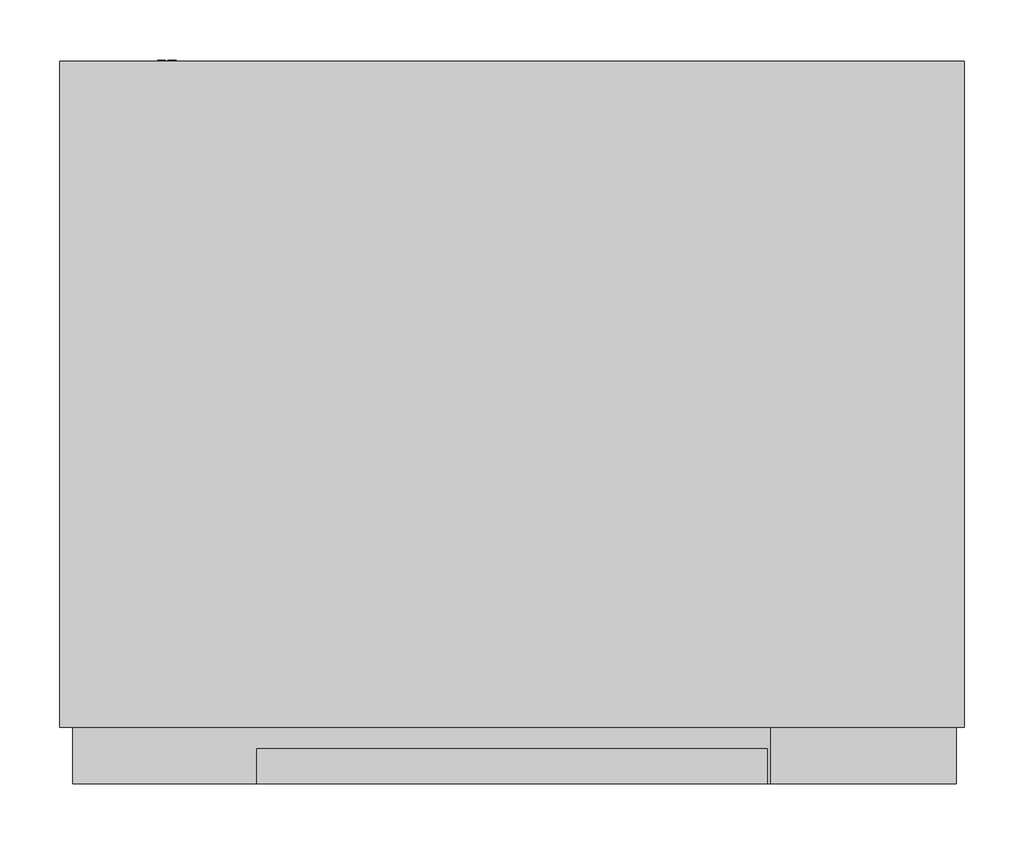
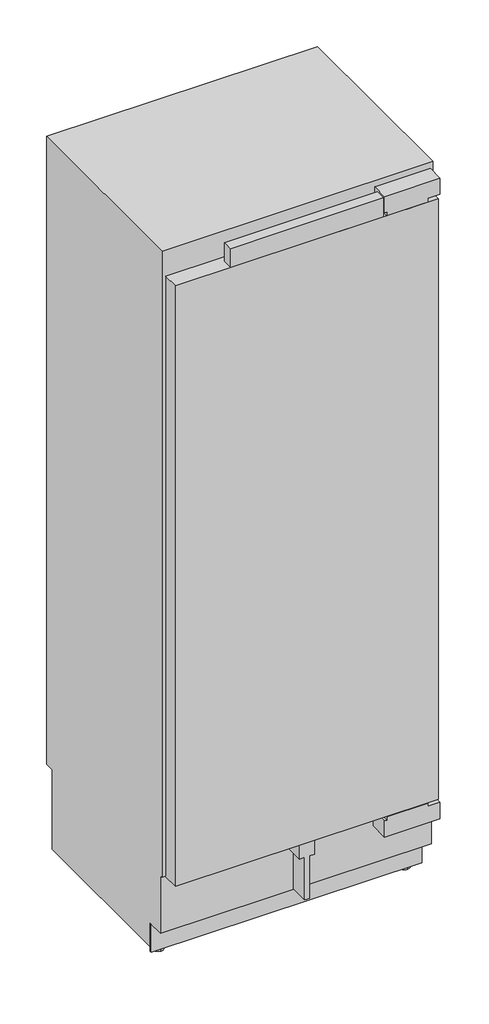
# Not in any storey: 1 proxy.
"""IFC4 building model written with IfcOpenShell, lengths in millimetres."""

import ifcopenshell
import ifcopenshell.guid

model = None  # the IFC model being written
_history = None  # IfcOwnerHistory: only IFC2X3 demands one
_inside = {}  # id of a spatial element -> (the spatial element, [elements in it])
_under = {}  # id of a project, library or spatial element -> (it, [spatial elements below it])
_declared = {}  # id of a project -> (the project, [libraries it declares])
_typed = {}  # id of a type object -> (the type object, [elements of that type])
_made_of = {}  # id of a material, layer set ... -> (it, [elements and type objects made of it])


def new_model(schema):
    """Start an empty IFC model of exactly this schema.

    Asked for "IFC4X3", IfcOpenShell would pick the latest addendum, in which some entities
    have other attributes; the version numbers below select the first issue.
    IFC2X3 requires an IfcOwnerHistory on every rooted entity: one is made here for all.
    """
    global model, _history
    if schema == "IFC4X3":
        model = ifcopenshell.file(schema_version=(4, 3, 0, 0))
    else:
        model = ifcopenshell.file(schema=schema)
    _inside.clear()
    _under.clear()
    _declared.clear()
    _typed.clear()
    _made_of.clear()
    _history = None
    if model.schema == "IFC2X3":
        org = make("IfcOrganization", Name="unknown")
        user = make(
            "IfcPersonAndOrganization",
            ThePerson=make("IfcPerson", FamilyName="unknown"),
            TheOrganization=org,
        )
        app = make(
            "IfcApplication",
            ApplicationDeveloper=org,
            Version="unknown",
            ApplicationFullName="unknown",
            ApplicationIdentifier="unknown",
        )
        _history = make(
            "IfcOwnerHistory",
            OwningUser=user,
            OwningApplication=app,
            ChangeAction="ADDED",
            CreationDate=0,
        )
    return model


def make(cls, **values):
    """One entity of the class cls with the attributes given. An attribute that is None is left unset."""
    return model.create_entity(
        cls, **{name: value for name, value in values.items() if value is not None}
    )


def rooted(cls, **values):
    """An entity with a GlobalId (a new one), such as an element, a storey or a relation."""
    return make(cls, GlobalId=ifcopenshell.guid.new(), OwnerHistory=_history, **values)


def si_unit(unit_type, name, prefix=None):
    """IfcSIUnit, for example si_unit("LENGTHUNIT", "METRE", prefix="MILLI")."""
    return make("IfcSIUnit", UnitType=unit_type, Prefix=prefix, Name=name)


def assignment(units):
    """IfcUnitAssignment: the units of a project."""
    return None if units is None else make("IfcUnitAssignment", Units=units)


def point(xyz):
    """IfcCartesianPoint."""
    return None if xyz is None else make("IfcCartesianPoint", Coordinates=xyz)


def direction(xyz):
    """IfcDirection."""
    return None if xyz is None else make("IfcDirection", DirectionRatios=xyz)


def frame(location, z_axis=None, x_axis=None):
    """IfcAxis2Placement3D, a coordinate frame: its origin and axes. An axis left out is left unset."""
    return make(
        "IfcAxis2Placement3D",
        Location=point(location),
        Axis=direction(z_axis),
        RefDirection=direction(x_axis),
    )


def frame_2d(location, x_axis=None):
    """IfcAxis2Placement2D, a coordinate frame in the plane: its origin and x axis."""
    return make(
        "IfcAxis2Placement2D", Location=point(location), RefDirection=direction(x_axis)
    )


def origin():
    """The frame at (0, 0, 0) with its axes left unset."""
    return frame((0.0, 0.0, 0.0))


def place(relative_to, where):
    """IfcLocalPlacement: puts the frame where relative to a parent placement (None: the world)."""
    return make(
        "IfcLocalPlacement", PlacementRelTo=relative_to, RelativePlacement=where
    )


def context(
    kind, dimensions, precision=None, world=None, true_north=None, identifier=None
):
    """IfcGeometricRepresentationContext, for example the 3D "Model" context."""
    return make(
        "IfcGeometricRepresentationContext",
        ContextIdentifier=identifier,
        ContextType=kind,
        CoordinateSpaceDimension=dimensions,
        Precision=precision,
        WorldCoordinateSystem=world,
        TrueNorth=true_north,
    )


def project(units=None, contexts=None):
    """IfcProject with its units and contexts."""
    return rooted(
        "IfcProject",
        Name="project",
        RepresentationContexts=contexts,
        UnitsInContext=assignment(units),
    )


def spatial(cls, under=None, at=None, **own):
    """A site, building, storey or space (cls), placed at a placement, below another one or the project."""
    s = rooted(cls, ObjectPlacement=at, **own)
    if under is not None:
        _under.setdefault(under.id(), (under, []))[1].append(s)
    return s


def polyline(points):
    """IfcPolyline through the points."""
    return make("IfcPolyline", Points=[point(p) for p in points])


def circle_curve(where, radius):
    """IfcCircle in the frame where."""
    return make("IfcCircle", Position=where, Radius=radius)


def trimmed(basis, trim1, trim2, sense, master):
    """IfcTrimmedCurve: the piece of a basis curve between two trims."""
    return make(
        "IfcTrimmedCurve",
        BasisCurve=basis,
        Trim1=trim1,
        Trim2=trim2,
        SenseAgreement=sense,
        MasterRepresentation=master,
    )


def segment(curve, same_sense, transition):
    """IfcCompositeCurveSegment."""
    return make(
        "IfcCompositeCurveSegment",
        Transition=transition,
        SameSense=same_sense,
        ParentCurve=curve,
    )


def composite_curve(segments, self_intersect=None):
    """IfcCompositeCurve: segments joined end to end."""
    return make("IfcCompositeCurve", Segments=segments, SelfIntersect=self_intersect)


def outline(outer, holes=None, kind="AREA"):
    """IfcArbitraryClosedProfileDef: a profile drawn as a closed curve; with holes, ...WithVoids."""
    if holes is None:
        return make("IfcArbitraryClosedProfileDef", ProfileType=kind, OuterCurve=outer)
    return make(
        "IfcArbitraryProfileDefWithVoids",
        ProfileType=kind,
        OuterCurve=outer,
        InnerCurves=holes,
    )


def extrude(swept, where, along, depth):
    """IfcExtrudedAreaSolid: the profile swept, set in the frame where, extruded along a direction by depth."""
    return make(
        "IfcExtrudedAreaSolid",
        SweptArea=swept,
        Position=where,
        ExtrudedDirection=direction(along),
        Depth=depth,
    )


def shape(context_of_items, identifier, shape_type, items):
    """IfcShapeRepresentation: the items that make up one representation, for example the "Body"."""
    return make(
        "IfcShapeRepresentation",
        ContextOfItems=context_of_items,
        RepresentationIdentifier=identifier,
        RepresentationType=shape_type,
        Items=items,
    )


def source(mapping_origin, context_of_items, identifier, shape_type, items):
    """IfcRepresentationMap: a shape defined once, which mapped items show again and again."""
    return make(
        "IfcRepresentationMap",
        MappingOrigin=mapping_origin,
        MappedRepresentation=shape(context_of_items, identifier, shape_type, items),
    )


def transform(
    local_origin,
    x_axis=None,
    y_axis=None,
    z_axis=None,
    scale=None,
    scale2=None,
    scale3=None,
    uniform=True,
):
    """IfcCartesianTransformationOperator3D, or its non-uniform kind. x_axis, y_axis, z_axis: its Axis1, 2, 3."""
    if uniform:
        return make(
            "IfcCartesianTransformationOperator3D",
            Axis1=direction(x_axis),
            Axis2=direction(y_axis),
            LocalOrigin=point(local_origin),
            Scale=scale,
            Axis3=direction(z_axis),
        )
    return make(
        "IfcCartesianTransformationOperator3DnonUniform",
        Axis1=direction(x_axis),
        Axis2=direction(y_axis),
        LocalOrigin=point(local_origin),
        Scale=scale,
        Axis3=direction(z_axis),
        Scale2=scale2,
        Scale3=scale3,
    )


def mapped(mapping_source, mapping_target):
    """IfcMappedItem: shows the shape of a source again, moved by a transform."""
    return make(
        "IfcMappedItem", MappingSource=mapping_source, MappingTarget=mapping_target
    )


def made_of(thing, what):
    """Note that an element or type object is made of a material, layer set ...; save() writes the relation."""
    if what is not None:
        _made_of.setdefault(what.id(), (what, []))[1].append(thing)
    return thing


def element(
    cls,
    number,
    at=None,
    inside=None,
    cuts=None,
    type_object=None,
    material=None,
    context=None,
    identifier="Body",
    shape_type=None,
    held_by="IfcProductDefinitionShape",
    body=None,
    shapes=None,
    **own,
):
    """One element of the class cls, such as IfcWall. Its Tag is "e" and its number.

    at: its placement. inside: the storey or other place that contains it. cuts: it is an
    opening in that element (IfcRelVoidsElement). A single representation is given by context,
    identifier, shape_type and body (its items); several are given by shapes. held_by: the class
    of the entity that holds the representations. save() writes the other relations.
    """
    e = rooted(cls, Tag="e%d" % number, ObjectPlacement=at, **own)
    if body is not None:
        shapes = [shape(context, identifier, shape_type, body)]
    if shapes is not None:
        e.Representation = make(held_by, Representations=shapes)
    if inside is not None:
        _inside.setdefault(inside.id(), (inside, []))[1].append(e)
    if cuts is not None:
        rooted(
            "IfcRelVoidsElement", RelatingBuildingElement=cuts, RelatedOpeningElement=e
        )
    if type_object is not None:
        _typed.setdefault(type_object.id(), (type_object, []))[1].append(e)
    return made_of(e, material)


def aggregate(whole, parts):
    """IfcRelAggregates: a whole, such as a stair, and the parts it consists of."""
    return rooted("IfcRelAggregates", RelatingObject=whole, RelatedObjects=parts)


def save(model, path):
    """Write the relations noted so far, then the file.

    IfcRelAggregates (storeys below a building ...), IfcRelContainedInSpatialStructure (elements
    in a storey), IfcRelDefinesByType, IfcRelAssociatesMaterial and IfcRelDeclares: one each for
    every whole, place, type object, material and project.
    """
    for whole, parts in _under.values():
        aggregate(whole, parts)
    for where, things in _inside.values():
        rooted(
            "IfcRelContainedInSpatialStructure",
            RelatedElements=things,
            RelatingStructure=where,
        )
    for kind, things in _typed.values():
        rooted("IfcRelDefinesByType", RelatedObjects=things, RelatingType=kind)
    for what, things in _made_of.values():
        rooted("IfcRelAssociatesMaterial", RelatedObjects=things, RelatingMaterial=what)
    for by, libraries in _declared.values():
        rooted("IfcRelDeclares", RelatingContext=by, RelatedDefinitions=libraries)
    model.write(path)


def plane_surface(at):
    """IfcPlane: the flat surface through the origin of the frame at, square to its z axis."""
    return make("IfcPlane", Position=at)


def cylinder_surface(at, radius):
    """IfcCylindricalSurface: all points at the distance radius from the z axis of the frame at."""
    return make("IfcCylindricalSurface", Position=at, Radius=radius)


def advanced_brep(points, edges, surfaces, faces):
    """IfcAdvancedBrep: a solid bounded by faces that lie on surfaces and meet in shared edges.

    An edge is (start, end): straight between two places in points (the first is 0);
    or (start, end, curve); or (start, end, curve, False) where it runs against its curve.
    A face is (place in surfaces, loops), or (place, loops, False) where it looks against
    its surface's normal. A loop lists edges by number (the first is 1), with a minus sign
    where the edge is run from its end to its start. The first loop is the outer one.
    """
    corners = [point(p) for p in points]
    vertices = [make("IfcVertexPoint", VertexGeometry=c) for c in corners]
    made = []
    for start, end, *more in edges:
        made.append(
            make(
                "IfcEdgeCurve",
                EdgeStart=vertices[start],
                EdgeEnd=vertices[end],
                EdgeGeometry=more[0] if more else make("IfcPolyline", Points=[corners[start], corners[end]]),
                SameSense=more[1] if len(more) > 1 else True,
            )
        )
    hull = []
    for where, loops, *sense in faces:
        bounds = []
        for j, loop in enumerate(loops):
            ring = [make("IfcOrientedEdge", EdgeElement=made[abs(k) - 1], Orientation=k > 0) for k in loop]
            bounds.append(
                make(
                    "IfcFaceOuterBound" if j == 0 else "IfcFaceBound",
                    Bound=make("IfcEdgeLoop", EdgeList=ring),
                    Orientation=True,
                )
            )
        hull.append(make("IfcAdvancedFace", Bounds=bounds, FaceSurface=surfaces[where], SameSense=sense[0] if sense else True))
    return make("IfcAdvancedBrep", Outer=make("IfcClosedShell", CfsFaces=hull))


def specialty_equipment_c14d8376(model_context):
    return source(origin(), model_context, "Body", "SolidModel", [
        extrude(outline(polyline([(-367.0, 47.0), (367.0, 47.0), (367.0, 0.0), (-367.0, 0.0), (-367.0, 47.0)])), frame((0.0, 0.0, 265.0), z_axis=(0.0, 0.0, 1.0), x_axis=(1.0, 0.0, 0.0)), (0.0, 0.0, 1.0), 1771.0),
        extrude(outline(polyline([(-213.5, 29.0), (213.5, 29.0), (213.5, 0.0), (-213.5, 0.0), (-213.5, 29.0)])), frame((0.0, 0.0, 2036.0), z_axis=(0.0, 0.0, 1.0), x_axis=(1.0, 0.0, 0.0)), (0.0, 0.0, 1.0), 56.0),
        extrude(outline(polyline([(265.0, 21.0), (265.0, 0.0), (265.0, -21.0), (224.0, -21.0), (224.0, -6.5), (99.0, -6.5), (99.0, 0.0), (99.0, 6.5), (224.0, 6.5), (224.0, 21.0), (265.0, 21.0)])), frame((0.0, 0.0, 0.0), z_axis=(0.0, 1.0, 0.0), x_axis=(0.0, 0.0, 1.0)), (0.0, 0.0, 1.0), 54.0),
        extrude(outline(polyline([(87.0, 1998.0), (544.0, 1998.0), (544.0, 1791.0), (475.0, 1791.0), (447.0, 1868.0), (201.3701279, 1868.0), (156.3150905, 1940.0880598), (87.0, 1949.0), (87.0, 1998.0)])), frame((-332.0, 0.0, 0.0), z_axis=(1.0, 0.0, 0.0), x_axis=(0.0, 1.0, 0.0)), (0.0, 0.0, 1.0), 664.0),
        extrude(outline(polyline([(196.9886114, 1875.0), (195.809433, 1875.0), (158.6921935, 1934.4), (159.8713719, 1934.4), (196.9886114, 1875.0)])), frame((-69.0, 0.0, 0.0), z_axis=(1.0, 0.0, 0.0), x_axis=(0.0, 1.0, 0.0)), (0.0, 0.0, 1.0), 138.0),
        extrude(outline(polyline([(2095.0, 371.5), (2095.0, 216.5), (2047.0, 216.5), (2047.0, 222.5), (2036.5, 222.5), (2036.5, 337.5), (2047.0, 337.5), (2047.0, 371.5), (2095.0, 371.5)])), frame((0.0, 0.0, 0.0), z_axis=(0.0, 1.0, 0.0), x_axis=(0.0, 0.0, 1.0)), (0.0, 0.0, 1.0), 47.0),
        extrude(outline(polyline([(254.0, 216.5), (206.0, 216.5), (206.0, 371.5), (254.0, 371.5), (254.0, 337.5), (264.0, 337.5), (264.0, 222.5), (254.0, 222.5), (254.0, 216.5)])), frame((0.0, 0.0, 0.0), z_axis=(0.0, 1.0, 0.0), x_axis=(0.0, 0.0, 1.0)), (0.0, 0.0, 1.0), 54.0),
        extrude(outline(polyline([(99.0373308, -287.7645771), (97.7615342, -287.7645771), (97.7615342, -281.8195541), (94.7968516, -281.8195541), (94.7968516, -287.469579), (93.5246295, -287.469579), (93.5246295, -281.8415693), (90.2570046, -281.8415693), (90.2570046, -287.9619689), (88.9546219, -287.9619689), (88.9546219, -280.5443524), (99.0373308, -280.5443524), (99.0373308, -287.7645771)])), frame((0.0, 604.0, 0.0), z_axis=(0.0, 1.0, 0.0), x_axis=(0.0, 0.0, 1.0)), (0.0, 0.0, 1.0), 1.0),
        extrude(outline(polyline([(99.0458, -291.0619704), (90.2663944, -291.0619704), (90.2663944, -296.1145879), (89.0134802, -296.1145879), (89.0134802, -289.8423809), (99.0458, -289.8423809), (99.0458, -291.0619704)])), frame((0.0, 604.0, 0.0), z_axis=(0.0, 1.0, 0.0), x_axis=(0.0, 0.0, 1.0)), (0.0, 0.0, 1.0), 1.0),
        extrude(outline(composite_curve([segment(trimmed(circle_curve(frame_2d((94.0, -288.0)), 7.5), [point((86.5, -288.0))], [point((101.5, -288.0))], False, "CARTESIAN"), True, "CONTINUOUS"), segment(trimmed(circle_curve(frame_2d((94.0, -288.0)), 7.5), [point((101.5, -288.0))], [point((86.5, -288.0))], False, "CARTESIAN"), True, "CONTINUOUS")], self_intersect=False)), frame((0.0, 577.0, 0.0), z_axis=(0.0, 1.0, 0.0), x_axis=(0.0, 0.0, 1.0)), (0.0, 0.0, 1.0), 27.0),
        extrude(outline(polyline([(-378.0, 104.0), (378.0, 104.0), (378.0, 99.0), (-378.0, 99.0), (-378.0, 104.0)])), frame((0.0, 0.0, 14.0), z_axis=(0.0, 0.0, 1.0), x_axis=(1.0, 0.0, 0.0)), (0.0, 0.0, 1.0), 83.0),
        advanced_brep(
        [(-344.0, 139.0, 0.0), (-344.0, 109.0, 0.0), (-344.0, 139.0, 7.0), (-344.0, 109.0, 7.0), (-344.0, 128.7, 7.0), (-344.0, 119.3, 7.0), (-344.0, 128.7, 28.0), (-344.0, 119.3, 28.0)],
        [
            (0, 1, circle_curve(frame((-344.0, 124.0, 0.0), z_axis=(0.0, 0.0, -1.0), x_axis=(1.0, 0.0, 0.0)), 15.0)),
            (1, 0, circle_curve(frame((-344.0, 124.0, 0.0), z_axis=(0.0, 0.0, -1.0), x_axis=(1.0, 0.0, 0.0)), 15.0)),
            (2, 3, circle_curve(frame((-344.0, 124.0, 7.0), z_axis=(0.0, 0.0, 1.0), x_axis=(1.0, 0.0, 0.0)), 15.0)),
            (3, 2, circle_curve(frame((-344.0, 124.0, 7.0), z_axis=(0.0, 0.0, 1.0), x_axis=(1.0, 0.0, 0.0)), 15.0)),
            (4, 5, circle_curve(frame((-344.0, 124.0, 7.0), z_axis=(0.0, 0.0, -1.0), x_axis=(0.0, -1.0, 0.0)), 4.7)),
            (5, 4, circle_curve(frame((-344.0, 124.0, 7.0), z_axis=(0.0, 0.0, -1.0), x_axis=(0.0, -1.0, 0.0)), 4.7)),
            (0, 2),
            (3, 1),
            (6, 7, circle_curve(frame((-344.0, 124.0, 28.0), z_axis=(0.0, 0.0, 1.0), x_axis=(0.0, -1.0, 0.0)), 4.7)),
            (7, 6, circle_curve(frame((-344.0, 124.0, 28.0), z_axis=(0.0, 0.0, 1.0), x_axis=(0.0, -1.0, 0.0)), 4.7)),
            (7, 5),
            (4, 6),
        ],
        [
            plane_surface(frame((-329.0, 124.0, 0.0), z_axis=(0.0, 0.0, -1.0), x_axis=(0.0, -1.0, 0.0))),
            plane_surface(frame((-329.0, 124.0, 7.0), z_axis=(0.0, 0.0, 1.0), x_axis=(0.0, 1.0, 0.0))),
            cylinder_surface(frame((-344.0, 124.0, 7.0), z_axis=(0.0, 0.0, -1.0), x_axis=(1.0, 0.0, 0.0)), 15.0),
            plane_surface(frame((-344.0, 119.3, 28.0), z_axis=(0.0, 0.0, 1.0), x_axis=(1.0, 0.0, 0.0))),
            cylinder_surface(frame((-344.0, 124.0, 28.0), z_axis=(0.0, 0.0, -1.0), x_axis=(0.0, -1.0, 0.0)), 4.7),
        ],
        [
            (0, [[1, 2]]),
            (1, [[3, 4], [5, 6]]),
            (2, [[-1, 7, -4, 8]]),
            (2, [[-2, -8, -3, -7]]),
            (3, [[9, 10]]),
            (4, [[-10, 11, -5, 12]]),
            (4, [[-9, -12, -6, -11]]),
        ],
    ),
        advanced_brep(
        [(344.0, 139.0, 0.0), (344.0, 109.0, 0.0), (344.0, 139.0, 7.0), (344.0, 109.0, 7.0), (344.0, 128.7, 7.0), (344.0, 119.3, 7.0), (344.0, 128.7, 28.0), (344.0, 119.3, 28.0)],
        [
            (0, 1, circle_curve(frame((344.0, 124.0, 0.0), z_axis=(0.0, 0.0, -1.0), x_axis=(1.0, 0.0, 0.0)), 15.0)),
            (1, 0, circle_curve(frame((344.0, 124.0, 0.0), z_axis=(0.0, 0.0, -1.0), x_axis=(1.0, 0.0, 0.0)), 15.0)),
            (2, 3, circle_curve(frame((344.0, 124.0, 7.0), z_axis=(0.0, 0.0, 1.0), x_axis=(1.0, 0.0, 0.0)), 15.0)),
            (3, 2, circle_curve(frame((344.0, 124.0, 7.0), z_axis=(0.0, 0.0, 1.0), x_axis=(1.0, 0.0, 0.0)), 15.0)),
            (4, 5, circle_curve(frame((344.0, 124.0, 7.0), z_axis=(0.0, 0.0, -1.0), x_axis=(0.0, -1.0, 0.0)), 4.7)),
            (5, 4, circle_curve(frame((344.0, 124.0, 7.0), z_axis=(0.0, 0.0, -1.0), x_axis=(0.0, -1.0, 0.0)), 4.7)),
            (0, 2),
            (3, 1),
            (6, 7, circle_curve(frame((344.0, 124.0, 28.0), z_axis=(0.0, 0.0, 1.0), x_axis=(0.0, -1.0, 0.0)), 4.7)),
            (7, 6, circle_curve(frame((344.0, 124.0, 28.0), z_axis=(0.0, 0.0, 1.0), x_axis=(0.0, -1.0, 0.0)), 4.7)),
            (7, 5),
            (4, 6),
        ],
        [
            plane_surface(frame((-329.0, 124.0, 0.0), z_axis=(0.0, 0.0, -1.0), x_axis=(0.0, -1.0, 0.0))),
            plane_surface(frame((-329.0, 124.0, 7.0), z_axis=(0.0, 0.0, 1.0), x_axis=(0.0, 1.0, 0.0))),
            cylinder_surface(frame((344.0, 124.0, 7.0), z_axis=(0.0, 0.0, -1.0), x_axis=(1.0, 0.0, 0.0)), 15.0),
            plane_surface(frame((-344.0, 119.3, 28.0), z_axis=(0.0, 0.0, 1.0), x_axis=(1.0, 0.0, 0.0))),
            cylinder_surface(frame((344.0, 124.0, 28.0), z_axis=(0.0, 0.0, -1.0), x_axis=(0.0, -1.0, 0.0)), 4.7),
        ],
        [
            (0, [[1, 2]]),
            (1, [[3, 4], [5, 6]]),
            (2, [[-1, 7, -4, 8]]),
            (2, [[-2, -8, -3, -7]]),
            (3, [[9, 10]]),
            (4, [[-10, 11, -5, 12]]),
            (4, [[-9, -12, -6, -11]]),
        ],
    ),
        advanced_brep(
        [(378.0, 47.0, 2114.0), (378.0, 47.0, 267.0), (378.0, 54.0, 267.0), (378.0, 54.0, 97.0), (378.0, 104.0, 97.0), (378.0, 104.0, 28.0), (378.0, 577.0, 28.0), (378.0, 577.0, 263.0), (378.0, 604.0, 263.0), (378.0, 604.0, 2114.0), (-378.0, 47.0, 2114.0), (-378.0, 604.0, 2114.0), (-378.0, 604.0, 263.0), (-378.0, 577.0, 263.0), (-378.0, 577.0, 28.0), (-378.0, 104.0, 28.0), (-378.0, 104.0, 97.0), (-378.0, 54.0, 97.0), (-378.0, 54.0, 267.0), (-378.0, 47.0, 267.0), (318.0, 577.0, 28.0), (318.0, 577.0, 14.0), (-318.0, 577.0, 14.0), (-318.0, 577.0, 28.0), (318.0, 104.0, 14.0), (-318.0, 104.0, 14.0), (-318.0, 104.0, 28.0), (318.0, 104.0, 28.0), (332.0, 47.0, 1998.0), (332.0, 47.0, 343.0), (-332.0, 47.0, 343.0), (-332.0, 47.0, 1998.0), (332.0, 544.0, 1998.0), (-332.0, 544.0, 1998.0), (-332.0, 544.0, 343.0), (332.0, 544.0, 343.0), (-336.5, 202.8193473, 28.0), (-355.5, 202.8193473, 28.0), (-355.5, 153.1806527, 28.0), (-336.5, 153.1806527, 28.0), (-356.0, 525.8193473, 28.0), (-356.0, 476.1806527, 28.0), (-340.0, 476.1806527, 28.0), (-340.0, 525.8193473, 28.0), (355.5, 153.1806527, 28.0), (355.5, 202.8193473, 28.0), (336.5, 202.8193473, 28.0), (336.5, 153.1806527, 28.0), (340.0, 525.8193473, 28.0), (340.0, 476.1806527, 28.0), (356.0, 476.1806527, 28.0), (356.0, 525.8193473, 28.0), (-336.5, 203.0, 25.0), (-336.5, 153.0, 25.0), (-355.5, 153.0, 25.0), (-355.5, 203.0, 25.0), (-336.5, 178.0, 25.0), (-355.5, 178.0, 25.0), (355.5, 178.0, 25.0), (355.5, 153.0, 25.0), (355.5, 203.0, 25.0), (336.5, 203.0, 25.0), (336.5, 153.0, 25.0), (336.5, 178.0, 25.0), (-356.0, 526.0, 25.0), (-356.0, 476.0, 25.0), (-356.0, 501.0, 25.0), (-340.0, 526.0, 25.0), (-340.0, 476.0, 25.0), (-340.0, 501.0, 25.0), (340.0, 526.0, 25.0), (340.0, 476.0, 25.0), (340.0, 501.0, 25.0), (356.0, 526.0, 25.0), (356.0, 476.0, 25.0), (356.0, 501.0, 25.0)],
        [
            (0, 1),
            (1, 2),
            (2, 3),
            (3, 4),
            (4, 5),
            (5, 6),
            (6, 7),
            (7, 8),
            (8, 9),
            (9, 0),
            (10, 11),
            (11, 12),
            (12, 13),
            (13, 14),
            (14, 15),
            (15, 16),
            (16, 17),
            (17, 18),
            (18, 19),
            (19, 10),
            (9, 11),
            (10, 0),
            (8, 12),
            (7, 13),
            (6, 20),
            (20, 21),
            (21, 22),
            (22, 23),
            (23, 14),
            (21, 24),
            (24, 25),
            (25, 22),
            (4, 16),
            (15, 26),
            (26, 25),
            (24, 27),
            (27, 5),
            (3, 17),
            (2, 18),
            (1, 19),
            (28, 29),
            (29, 30),
            (30, 31),
            (31, 28),
            (32, 33),
            (33, 34),
            (34, 35),
            (35, 32),
            (35, 29),
            (28, 32),
            (34, 30),
            (33, 31),
            (23, 26),
            (36, 37),
            (37, 38),
            (38, 39),
            (39, 36),
            (40, 41),
            (41, 42),
            (42, 43),
            (43, 40),
            (27, 20),
            (44, 45),
            (45, 46),
            (46, 47),
            (47, 44),
            (48, 49),
            (49, 50),
            (50, 51),
            (51, 48),
            (52, 53, circle_curve(frame((-336.5, 178.0, 25.0), z_axis=(-1.0, 0.0, 0.0), x_axis=(0.0, -1.0, 0.0)), 25.0)),
            (53, 54),
            (54, 55, circle_curve(frame((-355.5, 178.0, 25.0), z_axis=(1.0, 0.0, 0.0), x_axis=(0.0, -1.0, 0.0)), 25.0)),
            (55, 52),
            (53, 39, circle_curve(frame((-336.5, 178.0, 25.0), z_axis=(-1.0, 0.0, 0.0), x_axis=(0.0, -1.0, 0.0)), 25.0)),
            (38, 54, circle_curve(frame((-355.5, 178.0, 25.0), z_axis=(1.0, 0.0, 0.0), x_axis=(0.0, -1.0, 0.0)), 25.0)),
            (55, 37, circle_curve(frame((-355.5, 178.0, 25.0), z_axis=(1.0, 0.0, 0.0), x_axis=(0.0, -1.0, 0.0)), 25.0)),
            (36, 52, circle_curve(frame((-336.5, 178.0, 25.0), z_axis=(-1.0, 0.0, 0.0), x_axis=(0.0, -1.0, 0.0)), 25.0)),
            (52, 56),
            (56, 53),
            (54, 57),
            (57, 55),
            (58, 59),
            (59, 60, circle_curve(frame((355.5, 178.0, 25.0), z_axis=(1.0, 0.0, 0.0), x_axis=(0.0, -1.0, 0.0)), 25.0)),
            (60, 58),
            (60, 45, circle_curve(frame((355.5, 178.0, 25.0), z_axis=(1.0, 0.0, 0.0), x_axis=(0.0, -1.0, 0.0)), 25.0)),
            (44, 59, circle_curve(frame((355.5, 178.0, 25.0), z_axis=(1.0, 0.0, 0.0), x_axis=(0.0, -1.0, 0.0)), 25.0)),
            (61, 62, circle_curve(frame((336.5, 178.0, 25.0), z_axis=(-1.0, 0.0, 0.0), x_axis=(0.0, -1.0, 0.0)), 25.0)),
            (62, 63),
            (63, 61),
            (62, 47, circle_curve(frame((336.5, 178.0, 25.0), z_axis=(-1.0, 0.0, 0.0), x_axis=(0.0, -1.0, 0.0)), 25.0)),
            (46, 61, circle_curve(frame((336.5, 178.0, 25.0), z_axis=(-1.0, 0.0, 0.0), x_axis=(0.0, -1.0, 0.0)), 25.0)),
            (64, 65, circle_curve(frame((-356.0, 501.0, 25.0), z_axis=(-1.0, 0.0, 0.0), x_axis=(0.0, -1.0, 0.0)), 25.0)),
            (65, 66),
            (66, 64),
            (65, 41, circle_curve(frame((-356.0, 501.0, 25.0), z_axis=(-1.0, 0.0, 0.0), x_axis=(0.0, -1.0, 0.0)), 25.0)),
            (40, 64, circle_curve(frame((-356.0, 501.0, 25.0), z_axis=(-1.0, 0.0, 0.0), x_axis=(0.0, -1.0, 0.0)), 25.0)),
            (64, 67),
            (67, 68, circle_curve(frame((-340.0, 501.0, 25.0), z_axis=(-1.0, 0.0, 0.0), x_axis=(0.0, -1.0, 0.0)), 25.0)),
            (68, 65),
            (43, 67, circle_curve(frame((-340.0, 501.0, 25.0), z_axis=(-1.0, 0.0, 0.0), x_axis=(0.0, -1.0, 0.0)), 25.0)),
            (68, 42, circle_curve(frame((-340.0, 501.0, 25.0), z_axis=(-1.0, 0.0, 0.0), x_axis=(0.0, -1.0, 0.0)), 25.0)),
            (67, 69),
            (69, 68),
            (70, 71, circle_curve(frame((340.0, 501.0, 25.0), z_axis=(-1.0, 0.0, 0.0), x_axis=(0.0, -1.0, 0.0)), 25.0)),
            (71, 72),
            (72, 70),
            (71, 49, circle_curve(frame((340.0, 501.0, 25.0), z_axis=(-1.0, 0.0, 0.0), x_axis=(0.0, -1.0, 0.0)), 25.0)),
            (48, 70, circle_curve(frame((340.0, 501.0, 25.0), z_axis=(-1.0, 0.0, 0.0), x_axis=(0.0, -1.0, 0.0)), 25.0)),
            (70, 73),
            (73, 74, circle_curve(frame((356.0, 501.0, 25.0), z_axis=(-1.0, 0.0, 0.0), x_axis=(0.0, -1.0, 0.0)), 25.0)),
            (74, 71),
            (51, 73, circle_curve(frame((356.0, 501.0, 25.0), z_axis=(-1.0, 0.0, 0.0), x_axis=(0.0, -1.0, 0.0)), 25.0)),
            (74, 50, circle_curve(frame((356.0, 501.0, 25.0), z_axis=(-1.0, 0.0, 0.0), x_axis=(0.0, -1.0, 0.0)), 25.0)),
            (73, 75),
            (75, 74),
            (59, 62),
            (61, 60),
        ],
        [
            plane_surface(frame((378.0, 604.0, 2114.0), z_axis=(1.0, 0.0, 0.0), x_axis=(0.0, -1.0, 0.0))),
            plane_surface(frame((-378.0, 604.0, 2114.0), z_axis=(-1.0, 0.0, 0.0), x_axis=(0.0, 1.0, 0.0))),
            plane_surface(frame((-378.0, 47.0, 2114.0), z_axis=(0.0, 0.0, 1.0), x_axis=(1.0, 0.0, 0.0))),
            plane_surface(frame((-378.0, 604.0, 2114.0), z_axis=(0.0, 1.0, 0.0), x_axis=(1.0, 0.0, 0.0))),
            plane_surface(frame((-378.0, 604.0, 263.0), z_axis=(0.0, 0.0, -1.0), x_axis=(1.0, 0.0, 0.0))),
            plane_surface(frame((-378.0, 577.0, 263.0), z_axis=(0.0, 1.0, 0.0), x_axis=(1.0, 0.0, 0.0))),
            plane_surface(frame((-378.0, 577.0, 14.0), z_axis=(0.0, 0.0, -1.0), x_axis=(1.0, 0.0, 0.0))),
            plane_surface(frame((-378.0, 104.0, 14.0), z_axis=(0.0, -1.0, 0.0), x_axis=(1.0, 0.0, 0.0))),
            plane_surface(frame((-378.0, 104.0, 97.0), z_axis=(0.0, 0.0, -1.0), x_axis=(1.0, 0.0, 0.0))),
            plane_surface(frame((-378.0, 54.0, 97.0), z_axis=(0.0, -1.0, 0.0), x_axis=(1.0, 0.0, 0.0))),
            plane_surface(frame((-378.0, 54.0, 267.0), z_axis=(0.0, 0.0, -1.0), x_axis=(1.0, 0.0, 0.0))),
            plane_surface(frame((-378.0, 47.0, 267.0), z_axis=(0.0, -1.0, 0.0), x_axis=(1.0, 0.0, 0.0))),
            plane_surface(frame((332.0, 544.0, 1998.0), z_axis=(0.0, -1.0, 0.0), x_axis=(0.0, 0.0, -1.0))),
            plane_surface(frame((332.0, 544.0, 1998.0), z_axis=(-1.0, 0.0, 0.0), x_axis=(0.0, -1.0, 0.0))),
            plane_surface(frame((332.0, 544.0, 343.0), z_axis=(0.0, 0.0, 1.0), x_axis=(0.0, -1.0, 0.0))),
            plane_surface(frame((-332.0, 544.0, 343.0), z_axis=(1.0, 0.0, 0.0), x_axis=(0.0, -1.0, 0.0))),
            plane_surface(frame((-332.0, 544.0, 1998.0), z_axis=(0.0, 0.0, -1.0), x_axis=(0.0, -1.0, 0.0))),
            plane_surface(frame((-378.0, 604.0, 28.0), z_axis=(0.0, 0.0, -1.0), x_axis=(-1.0, 0.0, 0.0))),
            plane_surface(frame((-318.0, 104.0, 28.0), z_axis=(-1.0, 0.0, 0.0), x_axis=(0.0, 0.0, -1.0))),
            plane_surface(frame((318.0, 604.0, 28.0), z_axis=(1.0, 0.0, 0.0), x_axis=(0.0, 0.0, -1.0))),
            cylinder_surface(frame((-470.6988927, 178.0, 25.0), z_axis=(1.0, 0.0, 0.0), x_axis=(0.0, -1.0, 0.0)), 25.0),
            plane_surface(frame((-336.5, 178.0, 25.0), z_axis=(1.0, 0.0, 0.0), x_axis=(0.0, -1.0, 0.0))),
            plane_surface(frame((-355.5, 178.0, 25.0), z_axis=(-1.0, 0.0, 0.0), x_axis=(0.0, -1.0, 0.0))),
            plane_surface(frame((355.5, 178.0, 25.0), z_axis=(1.0, 0.0, 0.0), x_axis=(0.0, -1.0, 0.0))),
            plane_surface(frame((336.5, 178.0, 25.0), z_axis=(-1.0, 0.0, 0.0), x_axis=(0.0, -1.0, 0.0))),
            plane_surface(frame((-356.0, 501.0, 25.0), z_axis=(-1.0, 0.0, 0.0), x_axis=(0.0, -1.0, 0.0))),
            cylinder_surface(frame((-470.6988927, 501.0, 25.0), z_axis=(1.0, 0.0, 0.0), x_axis=(0.0, -1.0, 0.0)), 25.0),
            plane_surface(frame((-340.0, 501.0, 25.0), z_axis=(1.0, 0.0, 0.0), x_axis=(0.0, -1.0, 0.0))),
            plane_surface(frame((340.0, 501.0, 25.0), z_axis=(-1.0, 0.0, 0.0), x_axis=(0.0, -1.0, 0.0))),
            plane_surface(frame((356.0, 501.0, 25.0), z_axis=(1.0, 0.0, 0.0), x_axis=(0.0, -1.0, 0.0))),
        ],
        [
            (0, [[1, 2, 3, 4, 5, 6, 7, 8, 9, 10]]),
            (1, [[11, 12, 13, 14, 15, 16, 17, 18, 19, 20]]),
            (2, [[-10, 21, -11, 22]]),
            (3, [[-9, 23, -12, -21]]),
            (4, [[-8, 24, -13, -23]]),
            (5, [[-24, -7, 25, 26, 27, 28, 29, -14]]),
            (6, [[-27, 30, 31, 32]]),
            (7, [[33, -16, 34, 35, -31, 36, 37, -5]]),
            (8, [[-4, 38, -17, -33]]),
            (9, [[-3, 39, -18, -38]]),
            (10, [[-2, 40, -19, -39]]),
            (11, [[-1, -22, -20, -40], [41, 42, 43, 44]]),
            (12, [[45, 46, 47, 48]]),
            (13, [[-48, 49, -41, 50]]),
            (14, [[-47, 51, -42, -49]]),
            (15, [[-46, 52, -43, -51]]),
            (16, [[-45, -50, -44, -52]]),
            (17, [[53, -34, -15, -29], [54, 55, 56, 57], [58, 59, 60, 61]]),
            (17, [[62, -25, -6, -37], [63, 64, 65, 66], [67, 68, 69, 70]]),
            (18, [[-53, -28, -32, -35]]),
            (19, [[-62, -36, -30, -26]]),
            (20, [[71, 72, 73, 74]]),
            (20, [[-72, 75, -56, 76]]),
            (20, [[-74, 77, -54, 78]]),
            (21, [[-71, 79, 80]]),
            (21, [[-80, -79, -78, -57, -75]]),
            (22, [[-73, 81, 82]]),
            (22, [[-81, -76, -55, -77, -82]]),
            (23, [[83, 84, 85]]),
            (23, [[-83, -85, 86, -63, 87]]),
            (24, [[88, 89, 90]]),
            (24, [[-89, 91, -65, 92, -90]]),
            (25, [[93, 94, 95]]),
            (25, [[-94, 96, -58, 97, -95]]),
            (26, [[-93, 98, 99, 100]]),
            (26, [[-98, -97, -61, 101]]),
            (26, [[-100, 102, -59, -96]]),
            (27, [[-99, 103, 104]]),
            (27, [[-104, -103, -101, -60, -102]]),
            (28, [[105, 106, 107]]),
            (28, [[-106, 108, -67, 109, -107]]),
            (26, [[-105, 110, 111, 112]]),
            (26, [[-110, -109, -70, 113]]),
            (26, [[-112, 114, -68, -108]]),
            (29, [[-111, 115, 116]]),
            (29, [[-116, -115, -113, -69, -114]]),
            (20, [[-84, 117, -88, 118]]),
            (20, [[-117, -87, -66, -91]]),
            (20, [[-118, -92, -64, -86]]),
        ],
    ),
    ])


model = new_model("IFC4")

# Units and contexts
model_context = context("Model", 3, world=origin())
ifc_project = project(units=[si_unit("LENGTHUNIT", "METRE", prefix="MILLI")], contexts=[model_context])

# Site, building
site = spatial("IfcSite", under=ifc_project)
building = spatial("IfcBuilding", under=site)

# Proxy
placement = place(None, origin())
specialty_equipment_shape = specialty_equipment_c14d8376(model_context)
element("IfcBuildingElementProxy", 1, Name="11287990_OER_K2801VI : 36280101_OER_11287990_K2801VI", ObjectType="11287990_OER_K2801VI : 36280101_OER_11287990_K2801VI", at=placement, inside=building, context=model_context, shape_type="MappedRepresentation", body=[
    mapped(specialty_equipment_shape, transform((0.0, 0.0, 0.0), x_axis=(1.0, 0.0, 0.0), y_axis=(0.0, 1.0, 0.0), z_axis=(0.0, 0.0, 1.0))),
])

save(model, "model.ifc")
